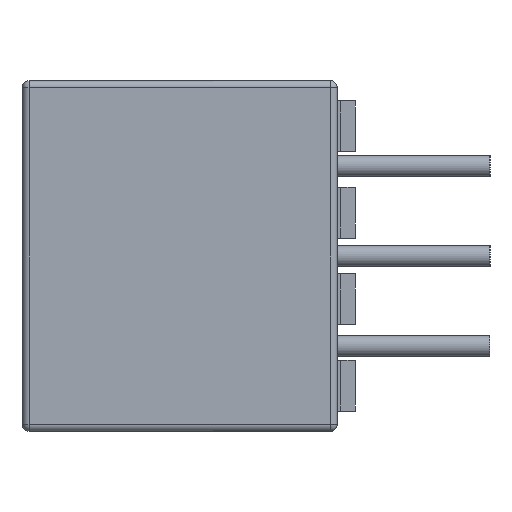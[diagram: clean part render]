
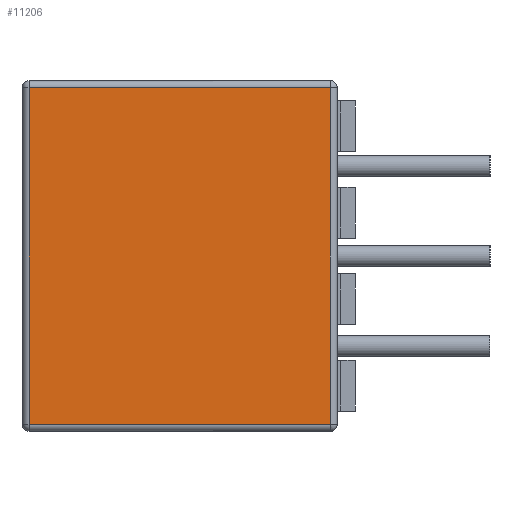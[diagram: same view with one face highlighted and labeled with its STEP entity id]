
A CAD part, left-side view. The second image highlights one B-rep face of the part: STEP entity #11206.
In plain terms, the highlighted planar face has unit normal (-1, 0, 0).
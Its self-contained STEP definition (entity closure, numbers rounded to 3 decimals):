
#11206 = ADVANCED_FACE ( 'NONE', ( #27140 ), #27135, .T. ) ;
#11208 = EDGE_LOOP ( 'NONE', ( #11209, #11218, #11224, #11230 ) ) ;
#11209 = ORIENTED_EDGE ( 'NONE', *, *, #11211, .T. ) ;
#11211 = EDGE_CURVE ( 'NONE', #11214, #11216, #27137, .T. ) ;
#11214 = VERTEX_POINT ( 'NONE', #27251 ) ;
#11216 = VERTEX_POINT ( 'NONE', #27250 ) ;
#11218 = ORIENTED_EDGE ( 'NONE', *, *, #11220, .T. ) ;
#11220 = EDGE_CURVE ( 'NONE', #11216, #11222, #27244, .T. ) ;
#11222 = VERTEX_POINT ( 'NONE', #27238 ) ;
#11224 = ORIENTED_EDGE ( 'NONE', *, *, #11226, .T. ) ;
#11226 = EDGE_CURVE ( 'NONE', #11222, #11228, #27233, .T. ) ;
#11228 = VERTEX_POINT ( 'NONE', #27229 ) ;
#11230 = ORIENTED_EDGE ( 'NONE', *, *, #11231, .T. ) ;
#11231 = EDGE_CURVE ( 'NONE', #11228, #11214, #27222, .T. ) ;
#27130 = DIRECTION ( 'NONE',  ( -1., 0., 0. ) ) ;
#27132 = CARTESIAN_POINT ( 'NONE',  ( -14.5, 0., 4.95 ) ) ;
#27133 = AXIS2_PLACEMENT_3D ( 'NONE', #27132, #27130, #27263 ) ;
#27135 = PLANE ( 'NONE',  #27133 ) ;
#27137 = LINE ( 'NONE', #27257, #27254 ) ;
#27140 = FACE_OUTER_BOUND ( 'NONE', #11208, .T. ) ;
#27219 = DIRECTION ( 'NONE',  ( 0., 1., 0. ) ) ;
#27220 = VECTOR ( 'NONE', #27219, 1000. ) ;
#27221 = CARTESIAN_POINT ( 'NONE',  ( -14.5, 0., 4.75 ) ) ;
#27222 = LINE ( 'NONE', #27221, #27220 ) ;
#27229 = CARTESIAN_POINT ( 'NONE',  ( -14.5, 0.2, 4.75 ) ) ;
#27230 = DIRECTION ( 'NONE',  ( 0., 0., 1. ) ) ;
#27231 = VECTOR ( 'NONE', #27230, 1000. ) ;
#27232 = CARTESIAN_POINT ( 'NONE',  ( -14.5, 0.2, 4.95 ) ) ;
#27233 = LINE ( 'NONE', #27232, #27231 ) ;
#27238 = CARTESIAN_POINT ( 'NONE',  ( -14.5, 0.2, -4.75 ) ) ;
#27240 = DIRECTION ( 'NONE',  ( 0., -1., 0. ) ) ;
#27242 = VECTOR ( 'NONE', #27240, 1000. ) ;
#27243 = CARTESIAN_POINT ( 'NONE',  ( -14.5, 0.004, -4.75 ) ) ;
#27244 = LINE ( 'NONE', #27243, #27242 ) ;
#27250 = CARTESIAN_POINT ( 'NONE',  ( -14.497, 8.69, -4.747 ) ) ;
#27251 = CARTESIAN_POINT ( 'NONE',  ( -14.497, 8.69, 4.747 ) ) ;
#27253 = DIRECTION ( 'NONE',  ( 0., 0., -1. ) ) ;
#27254 = VECTOR ( 'NONE', #27253, 1000. ) ;
#27257 = CARTESIAN_POINT ( 'NONE',  ( -14.497, 8.69, -4.947 ) ) ;
#27263 = DIRECTION ( 'NONE',  ( 0., -1., 0. ) ) ;
